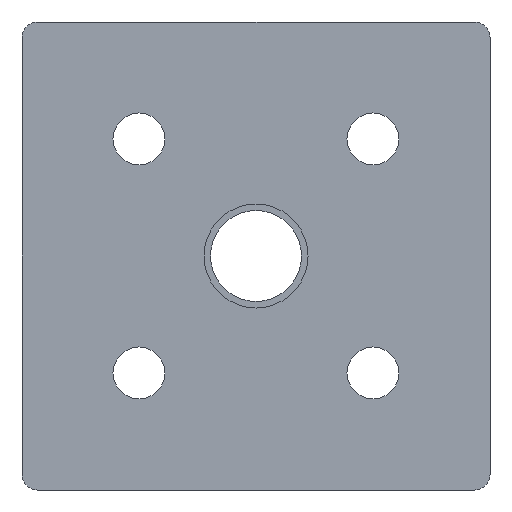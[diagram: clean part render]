
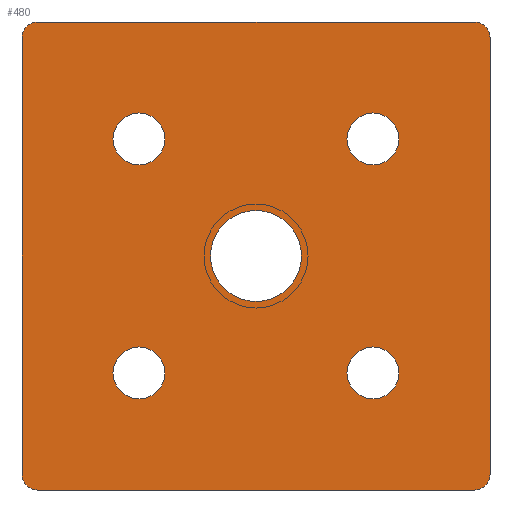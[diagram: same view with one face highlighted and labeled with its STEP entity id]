
A CAD part, front view. The second image highlights one B-rep face of the part: STEP entity #480.
In plain terms, the highlighted planar face has unit normal (0, -1, 0).
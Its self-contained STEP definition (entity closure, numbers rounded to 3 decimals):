
#1=CARTESIAN_POINT('',(-22.5,0.,-22.5));
#2=DIRECTION('',(0.,-1.,0.));
#3=DIRECTION('',(1.,0.,0.));
#4=AXIS2_PLACEMENT_3D('',#1,#2,#3);
#6=CARTESIAN_POINT('',(-22.5,0.,-22.5));
#7=DIRECTION('',(0.,-1.,0.));
#8=DIRECTION('',(-1.,0.,0.));
#9=AXIS2_PLACEMENT_3D('',#6,#7,#8);
#11=CARTESIAN_POINT('',(-22.5,0.,22.5));
#12=DIRECTION('',(0.,-1.,0.));
#13=DIRECTION('',(1.,0.,0.));
#14=AXIS2_PLACEMENT_3D('',#11,#12,#13);
#16=CARTESIAN_POINT('',(-22.5,0.,22.5));
#17=DIRECTION('',(0.,-1.,0.));
#18=DIRECTION('',(-1.,0.,0.));
#19=AXIS2_PLACEMENT_3D('',#16,#17,#18);
#21=CARTESIAN_POINT('',(0.,0.,0.));
#22=DIRECTION('',(0.,1.,0.));
#23=DIRECTION('',(1.,0.,0.));
#24=AXIS2_PLACEMENT_3D('',#21,#22,#23);
#26=CARTESIAN_POINT('',(0.,0.,0.));
#27=DIRECTION('',(0.,1.,0.));
#28=DIRECTION('',(-1.,0.,0.));
#29=AXIS2_PLACEMENT_3D('',#26,#27,#28);
#31=CARTESIAN_POINT('',(22.5,0.,-22.5));
#32=DIRECTION('',(0.,-1.,0.));
#33=DIRECTION('',(1.,0.,0.));
#34=AXIS2_PLACEMENT_3D('',#31,#32,#33);
#36=CARTESIAN_POINT('',(22.5,0.,-22.5));
#37=DIRECTION('',(0.,-1.,0.));
#38=DIRECTION('',(-1.,0.,0.));
#39=AXIS2_PLACEMENT_3D('',#36,#37,#38);
#41=CARTESIAN_POINT('',(22.5,0.,22.5));
#42=DIRECTION('',(0.,-1.,0.));
#43=DIRECTION('',(1.,0.,0.));
#44=AXIS2_PLACEMENT_3D('',#41,#42,#43);
#46=CARTESIAN_POINT('',(22.5,0.,22.5));
#47=DIRECTION('',(0.,-1.,0.));
#48=DIRECTION('',(-1.,0.,0.));
#49=AXIS2_PLACEMENT_3D('',#46,#47,#48);
#51=DIRECTION('',(0.,0.,-1.));
#52=VECTOR('',#51,84.);
#53=CARTESIAN_POINT('',(45.,0.,42.));
#54=LINE('',#53,#52);
#55=DIRECTION('',(-1.,0.,0.));
#56=VECTOR('',#55,84.);
#57=CARTESIAN_POINT('',(42.,0.,-45.));
#58=LINE('',#57,#56);
#59=DIRECTION('',(0.,0.,1.));
#60=VECTOR('',#59,84.);
#61=CARTESIAN_POINT('',(-45.,0.,-42.));
#62=LINE('',#61,#60);
#63=DIRECTION('',(1.,0.,0.));
#64=VECTOR('',#63,84.);
#65=CARTESIAN_POINT('',(-42.,0.,45.));
#66=LINE('',#65,#64);
#276=CARTESIAN_POINT('',(42.,0.,42.));
#277=DIRECTION('',(0.,-1.,0.));
#278=DIRECTION('',(1.,0.,0.));
#279=AXIS2_PLACEMENT_3D('',#276,#277,#278);
#294=CARTESIAN_POINT('',(-42.,0.,42.));
#295=DIRECTION('',(0.,-1.,0.));
#296=DIRECTION('',(0.,0.,1.));
#297=AXIS2_PLACEMENT_3D('',#294,#295,#296);
#312=CARTESIAN_POINT('',(-42.,0.,-42.));
#313=DIRECTION('',(0.,-1.,0.));
#314=DIRECTION('',(-1.,0.,0.));
#315=AXIS2_PLACEMENT_3D('',#312,#313,#314);
#330=CARTESIAN_POINT('',(42.,0.,-42.));
#331=DIRECTION('',(0.,-1.,0.));
#332=DIRECTION('',(0.,0.,-1.));
#333=AXIS2_PLACEMENT_3D('',#330,#331,#332);
#335=CARTESIAN_POINT('',(-17.5,0.,-22.5));
#336=CARTESIAN_POINT('',(-27.5,0.,-22.5));
#337=VERTEX_POINT('',#335);
#338=VERTEX_POINT('',#336);
#339=CARTESIAN_POINT('',(-17.5,0.,22.5));
#340=CARTESIAN_POINT('',(-27.5,0.,22.5));
#341=VERTEX_POINT('',#339);
#342=VERTEX_POINT('',#340);
#363=CARTESIAN_POINT('',(8.75,0.,0.));
#364=CARTESIAN_POINT('',(-8.75,0.,0.));
#365=VERTEX_POINT('',#363);
#366=VERTEX_POINT('',#364);
#372=CARTESIAN_POINT('',(42.,0.,45.));
#374=VERTEX_POINT('',#372);
#377=CARTESIAN_POINT('',(45.,0.,42.));
#378=VERTEX_POINT('',#377);
#380=CARTESIAN_POINT('',(-45.,0.,42.));
#382=VERTEX_POINT('',#380);
#385=CARTESIAN_POINT('',(-42.,0.,45.));
#386=VERTEX_POINT('',#385);
#388=CARTESIAN_POINT('',(45.,0.,-42.));
#390=VERTEX_POINT('',#388);
#393=CARTESIAN_POINT('',(42.,0.,-45.));
#394=VERTEX_POINT('',#393);
#396=CARTESIAN_POINT('',(-42.,0.,-45.));
#398=VERTEX_POINT('',#396);
#401=CARTESIAN_POINT('',(-45.,0.,-42.));
#402=VERTEX_POINT('',#401);
#403=CARTESIAN_POINT('',(27.5,0.,-22.5));
#404=CARTESIAN_POINT('',(17.5,0.,-22.5));
#405=VERTEX_POINT('',#403);
#406=VERTEX_POINT('',#404);
#407=CARTESIAN_POINT('',(27.5,0.,22.5));
#408=CARTESIAN_POINT('',(17.5,0.,22.5));
#409=VERTEX_POINT('',#407);
#410=VERTEX_POINT('',#408);
#427=CARTESIAN_POINT('',(0.,0.,0.));
#428=DIRECTION('',(0.,1.,0.));
#429=DIRECTION('',(1.,0.,0.));
#430=AXIS2_PLACEMENT_3D('',#427,#428,#429);
#431=PLANE('',#430);
#433=ORIENTED_EDGE('',*,*,#432,.F.);
#435=ORIENTED_EDGE('',*,*,#434,.T.);
#437=ORIENTED_EDGE('',*,*,#436,.F.);
#439=ORIENTED_EDGE('',*,*,#438,.T.);
#441=ORIENTED_EDGE('',*,*,#440,.F.);
#443=ORIENTED_EDGE('',*,*,#442,.T.);
#445=ORIENTED_EDGE('',*,*,#444,.F.);
#447=ORIENTED_EDGE('',*,*,#446,.T.);
#448=EDGE_LOOP('',(#433,#435,#437,#439,#441,#443,#445,#447));
#449=FACE_OUTER_BOUND('',#448,.F.);
#451=ORIENTED_EDGE('',*,*,#450,.T.);
#453=ORIENTED_EDGE('',*,*,#452,.T.);
#454=EDGE_LOOP('',(#451,#453));
#455=FACE_BOUND('',#454,.F.);
#457=ORIENTED_EDGE('',*,*,#456,.T.);
#459=ORIENTED_EDGE('',*,*,#458,.T.);
#460=EDGE_LOOP('',(#457,#459));
#461=FACE_BOUND('',#460,.F.);
#463=ORIENTED_EDGE('',*,*,#462,.F.);
#465=ORIENTED_EDGE('',*,*,#464,.F.);
#466=EDGE_LOOP('',(#463,#465));
#467=FACE_BOUND('',#466,.F.);
#469=ORIENTED_EDGE('',*,*,#468,.T.);
#471=ORIENTED_EDGE('',*,*,#470,.T.);
#472=EDGE_LOOP('',(#469,#471));
#473=FACE_BOUND('',#472,.F.);
#475=ORIENTED_EDGE('',*,*,#474,.T.);
#477=ORIENTED_EDGE('',*,*,#476,.T.);
#478=EDGE_LOOP('',(#475,#477));
#479=FACE_BOUND('',#478,.F.);
#480=ADVANCED_FACE('',(#449,#455,#461,#467,#473,#479),#431,.F.);
#5=CIRCLE('',#4,5.);
#10=CIRCLE('',#9,5.);
#15=CIRCLE('',#14,5.);
#20=CIRCLE('',#19,5.);
#25=CIRCLE('',#24,8.75);
#30=CIRCLE('',#29,8.75);
#35=CIRCLE('',#34,5.);
#40=CIRCLE('',#39,5.);
#45=CIRCLE('',#44,5.);
#50=CIRCLE('',#49,5.);
#280=CIRCLE('',#279,3.);
#298=CIRCLE('',#297,3.);
#316=CIRCLE('',#315,3.);
#334=CIRCLE('',#333,3.);
#432=EDGE_CURVE('',#378,#374,#280,.T.);
#434=EDGE_CURVE('',#378,#390,#54,.T.);
#436=EDGE_CURVE('',#394,#390,#334,.T.);
#438=EDGE_CURVE('',#394,#398,#58,.T.);
#440=EDGE_CURVE('',#402,#398,#316,.T.);
#442=EDGE_CURVE('',#402,#382,#62,.T.);
#444=EDGE_CURVE('',#386,#382,#298,.T.);
#446=EDGE_CURVE('',#386,#374,#66,.T.);
#450=EDGE_CURVE('',#337,#338,#5,.T.);
#452=EDGE_CURVE('',#338,#337,#10,.T.);
#456=EDGE_CURVE('',#341,#342,#15,.T.);
#458=EDGE_CURVE('',#342,#341,#20,.T.);
#462=EDGE_CURVE('',#365,#366,#25,.T.);
#464=EDGE_CURVE('',#366,#365,#30,.T.);
#468=EDGE_CURVE('',#405,#406,#35,.T.);
#470=EDGE_CURVE('',#406,#405,#40,.T.);
#474=EDGE_CURVE('',#409,#410,#45,.T.);
#476=EDGE_CURVE('',#410,#409,#50,.T.);
